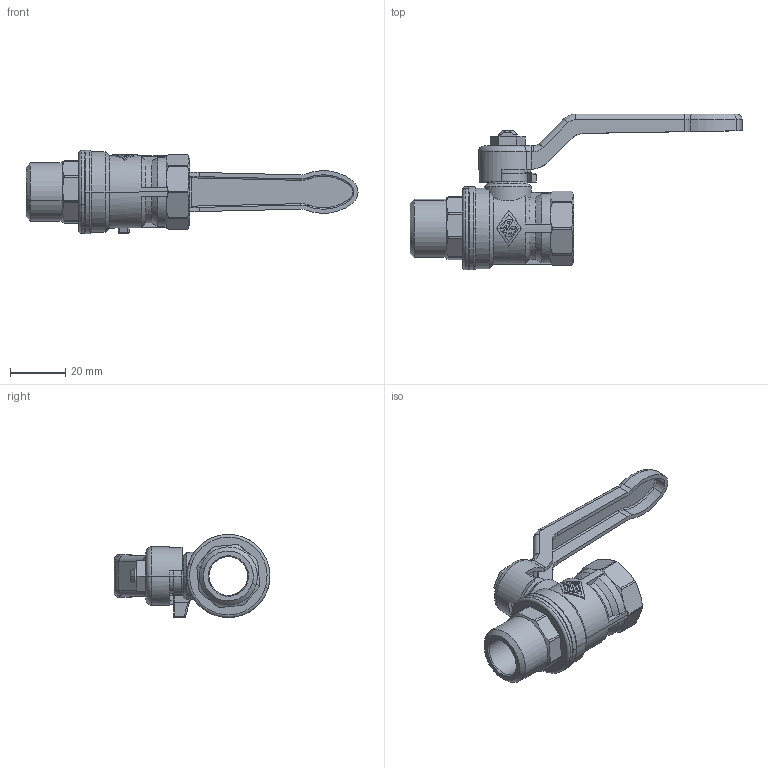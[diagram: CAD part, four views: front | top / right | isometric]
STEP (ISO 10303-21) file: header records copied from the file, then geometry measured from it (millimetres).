
FILE_DESCRIPTION(('OneSpaceDesigner STEP Export'),'2;1');
FILE_NAME('1501040000.stp','2007-10-08T10:52:24',(''),(''),'OneSpace Designer STEP processor for AP214 (Solid Model)','OneSpace Modeling 15.00B 25-Jun-2007 (C) CoCreate Software GmbH','');
FILE_SCHEMA(('AUTOMOTIVE_DESIGN { 1 0 10303 214 1 1 1 1 }'));
Length unit declared in the file: millimetre
Products named in the file (2): 1501040000
Assembly tree (1 placements, depth 2):
  1501040000
    1501040000
Bounding box: 119.75 x 56.2 x 30 mm (x, y, z)
Volume: 24823.2 mm3; surface area: 15164.7 mm2
Topology: 1 solids, 3 shells, 564 faces, 1466 edges, 920 vertices
Faces by surface type: plane 206, cylinder 206, cone 101, torus 28, bspline 17, sphere 4, extrusion 2
Entity records: 24379 total; most frequent: CARTESIAN_POINT 11152, ORIENTED_EDGE 2920, DIRECTION 2015, EDGE_CURVE 1460, VERTEX_POINT 920, AXIS2_PLACEMENT_3D 679, VECTOR 657, LINE 655
